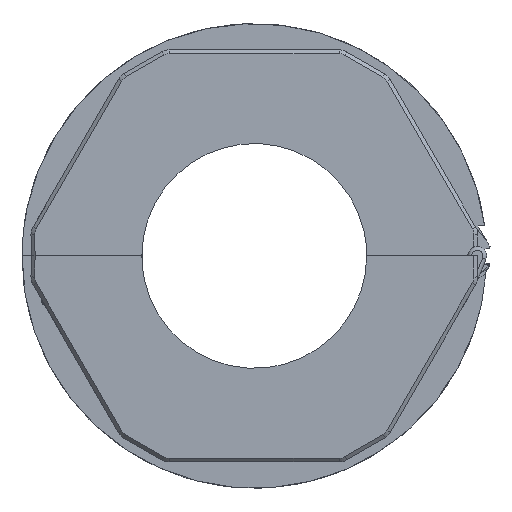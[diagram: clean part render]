
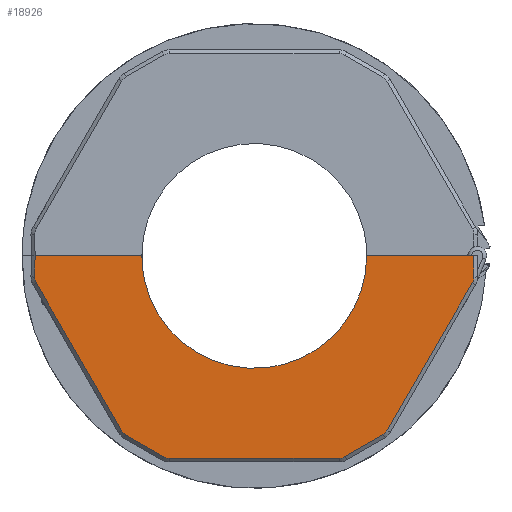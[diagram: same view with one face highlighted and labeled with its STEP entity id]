
A CAD part, left-side view. The second image highlights one B-rep face of the part: STEP entity #18926.
In plain terms, the highlighted planar face has unit normal (-1, 0, -0.009) as drawn and (-1, 0, 0.009) by its records, which use the part's own axes.
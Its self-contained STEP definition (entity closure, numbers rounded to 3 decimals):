
#472=CIRCLE('',#19968,1.5);
#474=CIRCLE('',#19971,1.5);
#476=CIRCLE('',#19974,1.5);
#478=CIRCLE('',#19977,1.5);
#480=CIRCLE('',#19980,1.5);
#482=CIRCLE('',#19983,1.5);
#1074=PLANE('',#20307);
#2265=FACE_OUTER_BOUND('',#3341,.T.);
#3341=EDGE_LOOP('',(#16830,#16831,#16832,#16833,#16834,#16835,#16836,#16837,
#16838,#16839,#16840,#16841,#16842,#16843,#16844,#16845));
#3718=ELLIPSE('',#20063,15.001,15.);
#4768=LINE('',#29634,#6622);
#4953=LINE('',#31177,#6807);
#4959=LINE('',#31207,#6813);
#4963=LINE('',#31234,#6817);
#4967=LINE('',#31261,#6821);
#4971=LINE('',#31288,#6825);
#4975=LINE('',#31315,#6829);
#4978=LINE('',#31339,#6832);
#5041=LINE('',#31541,#6895);
#6622=VECTOR('',#22937,10.);
#6807=VECTOR('',#23270,10.);
#6813=VECTOR('',#23282,10.);
#6817=VECTOR('',#23292,10.);
#6821=VECTOR('',#23302,10.);
#6825=VECTOR('',#23312,10.);
#6829=VECTOR('',#23322,10.);
#6832=VECTOR('',#23331,10.);
#6895=VECTOR('',#23486,10.);
#8715=VERTEX_POINT('',#29631);
#8716=VERTEX_POINT('',#29633);
#8980=VERTEX_POINT('',#31174);
#8981=VERTEX_POINT('',#31176);
#8983=VERTEX_POINT('',#31197);
#8985=VERTEX_POINT('',#31203);
#8987=VERTEX_POINT('',#31224);
#8989=VERTEX_POINT('',#31230);
#8991=VERTEX_POINT('',#31251);
#8993=VERTEX_POINT('',#31257);
#8995=VERTEX_POINT('',#31278);
#8997=VERTEX_POINT('',#31284);
#8999=VERTEX_POINT('',#31305);
#9001=VERTEX_POINT('',#31311);
#9003=VERTEX_POINT('',#31332);
#9066=VERTEX_POINT('',#31539);
#10948=EDGE_CURVE('',#8715,#8716,#4768,.T.);
#11236=EDGE_CURVE('',#8980,#8981,#4953,.T.);
#11241=EDGE_CURVE('',#8981,#8983,#472,.T.);
#11244=EDGE_CURVE('',#8983,#8985,#4959,.T.);
#11247=EDGE_CURVE('',#8985,#8987,#474,.T.);
#11250=EDGE_CURVE('',#8987,#8989,#4963,.T.);
#11253=EDGE_CURVE('',#8989,#8991,#476,.T.);
#11256=EDGE_CURVE('',#8991,#8993,#4967,.T.);
#11259=EDGE_CURVE('',#8993,#8995,#478,.T.);
#11262=EDGE_CURVE('',#8995,#8997,#4971,.T.);
#11265=EDGE_CURVE('',#8997,#8999,#480,.T.);
#11268=EDGE_CURVE('',#8999,#9001,#4975,.T.);
#11271=EDGE_CURVE('',#9001,#9003,#482,.T.);
#11273=EDGE_CURVE('',#9003,#8715,#4978,.T.);
#11363=EDGE_CURVE('',#9066,#8980,#5041,.T.);
#11413=EDGE_CURVE('',#8716,#9066,#3718,.F.);
#16830=ORIENTED_EDGE('',*,*,#11236,.F.);
#16831=ORIENTED_EDGE('',*,*,#11363,.F.);
#16832=ORIENTED_EDGE('',*,*,#11413,.F.);
#16833=ORIENTED_EDGE('',*,*,#10948,.F.);
#16834=ORIENTED_EDGE('',*,*,#11273,.F.);
#16835=ORIENTED_EDGE('',*,*,#11271,.F.);
#16836=ORIENTED_EDGE('',*,*,#11268,.F.);
#16837=ORIENTED_EDGE('',*,*,#11265,.F.);
#16838=ORIENTED_EDGE('',*,*,#11262,.F.);
#16839=ORIENTED_EDGE('',*,*,#11259,.F.);
#16840=ORIENTED_EDGE('',*,*,#11256,.F.);
#16841=ORIENTED_EDGE('',*,*,#11253,.F.);
#16842=ORIENTED_EDGE('',*,*,#11250,.F.);
#16843=ORIENTED_EDGE('',*,*,#11247,.F.);
#16844=ORIENTED_EDGE('',*,*,#11244,.F.);
#16845=ORIENTED_EDGE('',*,*,#11241,.F.);
#18926=ADVANCED_FACE('',(#2265),#1074,.F.);
#19968=AXIS2_PLACEMENT_3D('',#31201,#23276,#23277);
#19971=AXIS2_PLACEMENT_3D('',#31228,#23286,#23287);
#19974=AXIS2_PLACEMENT_3D('',#31255,#23296,#23297);
#19977=AXIS2_PLACEMENT_3D('',#31282,#23306,#23307);
#19980=AXIS2_PLACEMENT_3D('',#31309,#23316,#23317);
#19983=AXIS2_PLACEMENT_3D('',#31336,#23326,#23327);
#20063=AXIS2_PLACEMENT_3D('',#31639,#23589,#23590);
#20307=AXIS2_PLACEMENT_3D('',#33550,#24441,#24442);
#22937=DIRECTION('',(0.,1.,0.));
#23270=DIRECTION('',(0.009,0.017,1.));
#23276=DIRECTION('center_axis',(1.,0.,
-0.009));
#23277=DIRECTION('ref_axis',(0.004,0.866,0.5));
#23282=DIRECTION('',(0.008,-0.5,0.866));
#23286=DIRECTION('center_axis',(1.,0.,
-0.009));
#23287=DIRECTION('ref_axis',(0.008,0.5,0.866));
#23292=DIRECTION('',(0.004,-0.866,0.5));
#23296=DIRECTION('center_axis',(1.,0.,
-0.009));
#23297=DIRECTION('ref_axis',(0.009,0.,1.));
#23302=DIRECTION('',(0.,-1.,0.));
#23306=DIRECTION('center_axis',(1.,0.,
-0.009));
#23307=DIRECTION('ref_axis',(0.008,-0.5,0.866));
#23312=DIRECTION('',(-0.004,-0.866,-0.5));
#23316=DIRECTION('center_axis',(1.,0.,
-0.009));
#23317=DIRECTION('ref_axis',(0.004,-0.866,0.5));
#23322=DIRECTION('',(-0.008,-0.5,-0.866));
#23326=DIRECTION('center_axis',(1.,0.,
-0.009));
#23327=DIRECTION('ref_axis',(0.,-1.,-0.017));
#23331=DIRECTION('',(-0.009,0.017,-1.));
#23486=DIRECTION('',(0.,1.,0.));
#23589=DIRECTION('center_axis',(1.,0.,
-0.009));
#23590=DIRECTION('ref_axis',(-0.009,0.,
-1.));
#24441=DIRECTION('center_axis',(1.,0.,
-0.009));
#24442=DIRECTION('ref_axis',(-0.009,0.,
-1.));
#29631=CARTESIAN_POINT('',(-22.9,-29.254,0.));
#29633=CARTESIAN_POINT('',(-22.9,-15.,0.));
#29634=CARTESIAN_POINT('',(-22.9,-23.033,0.));
#31174=CARTESIAN_POINT('',(-22.9,29.254,0.));
#31176=CARTESIAN_POINT('',(-22.875,29.303,2.821));
#31177=CARTESIAN_POINT('',(-22.9,29.254,0.));
#31197=CARTESIAN_POINT('',(-22.869,29.103,3.597));
#31201=CARTESIAN_POINT('Origin',(-22.875,27.803,2.847));
#31203=CARTESIAN_POINT('',(-22.696,17.712,23.326));
#31207=CARTESIAN_POINT('',(-22.869,29.103,3.597));
#31224=CARTESIAN_POINT('',(-22.692,17.163,23.875));
#31228=CARTESIAN_POINT('Origin',(-22.703,16.413,22.576));
#31230=CARTESIAN_POINT('',(-22.666,12.091,26.803));
#31234=CARTESIAN_POINT('',(-22.692,17.163,23.875));
#31251=CARTESIAN_POINT('',(-22.664,11.341,27.004));
#31255=CARTESIAN_POINT('Origin',(-22.677,11.341,25.504));
#31257=CARTESIAN_POINT('',(-22.664,-11.341,27.004));
#31261=CARTESIAN_POINT('',(-22.664,11.341,27.004));
#31278=CARTESIAN_POINT('',(-22.666,-12.091,26.803));
#31282=CARTESIAN_POINT('Origin',(-22.677,-11.341,25.504));
#31284=CARTESIAN_POINT('',(-22.692,-17.163,23.875));
#31288=CARTESIAN_POINT('',(-22.666,-12.091,26.803));
#31305=CARTESIAN_POINT('',(-22.696,-17.712,23.326));
#31309=CARTESIAN_POINT('Origin',(-22.703,-16.413,22.576));
#31311=CARTESIAN_POINT('',(-22.869,-29.103,3.597));
#31315=CARTESIAN_POINT('',(-22.696,-17.712,23.326));
#31332=CARTESIAN_POINT('',(-22.875,-29.303,2.821));
#31336=CARTESIAN_POINT('Origin',(-22.875,-27.803,2.847));
#31339=CARTESIAN_POINT('',(-22.875,-29.303,2.821));
#31539=CARTESIAN_POINT('',(-22.9,15.,0.));
#31541=CARTESIAN_POINT('',(-22.9,-23.033,0.));
#31639=CARTESIAN_POINT('Origin',(-22.9,0.,0.));
#33550=CARTESIAN_POINT('Origin',(-22.792,0.,
12.331));
